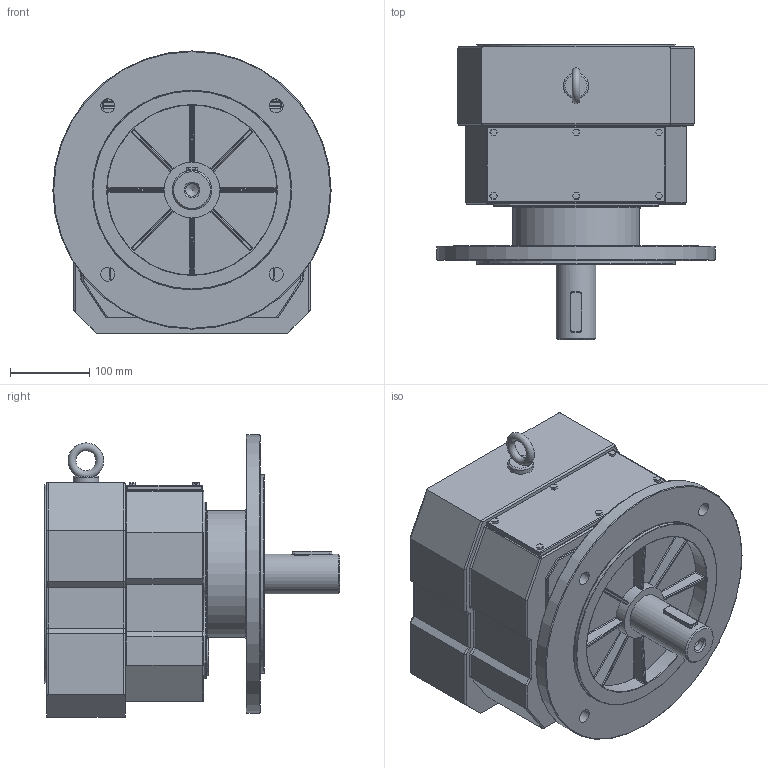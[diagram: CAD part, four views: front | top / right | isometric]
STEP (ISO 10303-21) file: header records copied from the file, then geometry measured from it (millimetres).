
FILE_DESCRIPTION((''),'2;1');
FILE_NAME('D:\PAWEŁ\ZLECENIA\2011 DualSystem\Przekładnie DR\DR80\STEP\DRF80_fi 350.stp','2012-06-11T12:14:47',('admin'),(''),'Autodesk Inventor 2009','Autodesk Inventor 2009','');
FILE_SCHEMA(('AUTOMOTIVE_DESIGN { 1 0 10303 214 1 1 1 1 }'));
Length unit declared in the file: millimetre
Products named in the file (1): DRF80_fi 350
Bounding box: 350 x 372 x 355 mm (x, y, z)
Volume: 18107908.9 mm3; surface area: 684771.5 mm2
Topology: 2 solids, 2 shells, 504 faces, 1206 edges, 682 vertices
Faces by surface type: cylinder 231, plane 165, sphere 44, bspline 43, torus 19, cone 2
Full cylindrical faces by diameter (mm): 32 x1, 36.667 x1, 47 x1, 50 x1, 55 x1, 70 x1, 160 x1, 210 x1, 214 x1, 250 x2, 350 x1
Entity records: 16893 total; most frequent: CARTESIAN_POINT 5306, DIRECTION 2486, ORIENTED_EDGE 2256, EDGE_CURVE 1128, AXIS2_PLACEMENT_3D 939, VERTEX_POINT 673, VECTOR 608, LINE 608
